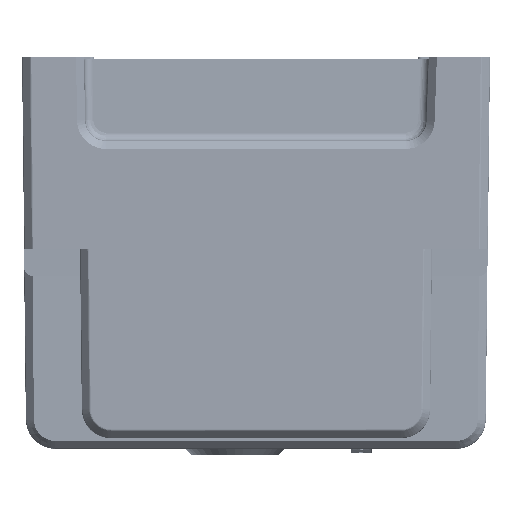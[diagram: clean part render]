
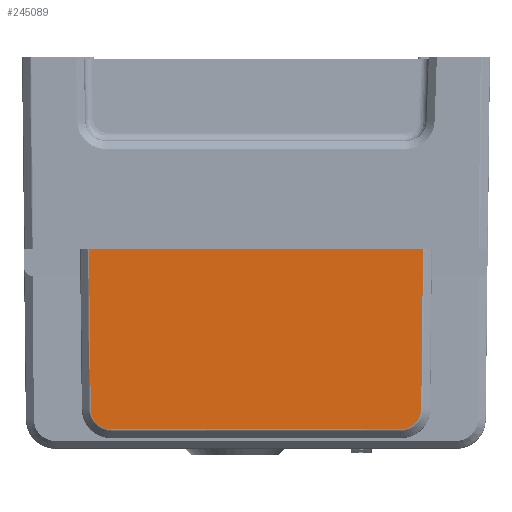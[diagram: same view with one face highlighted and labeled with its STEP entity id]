
A CAD part, left-side view. The second image highlights one B-rep face of the part: STEP entity #245089.
In plain terms, the highlighted planar face has unit normal (-1, 0, -0.011).
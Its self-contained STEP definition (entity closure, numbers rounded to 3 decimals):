
#11686 = PLANE ( 'NONE',  #228185 ) ;
#14276 = LINE ( 'NONE', #365718, #25817 ) ;
#22101 = EDGE_CURVE ( 'NONE', #233166, #151513, #14276, .T. ) ;
#25817 = VECTOR ( 'NONE', #97815, 1000. ) ;
#32650 = CARTESIAN_POINT ( 'NONE',  ( -980.051, -148.144, 45.318 ) ) ;
#38144 = EDGE_CURVE ( 'NONE', #63522, #233166, #71163, .T. ) ;
#43756 = EDGE_CURVE ( 'NONE', #217004, #241047, #55320, .T. ) ;
#45601 = CARTESIAN_POINT ( 'NONE',  ( -979.097, -158.729, -40.468 ) ) ;
#55320 = LINE ( 'NONE', #179485, #64120 ) ;
#57778 = EDGE_CURVE ( 'NONE', #158749, #217004, #282459, .T. ) ;
#63522 = VERTEX_POINT ( 'NONE', #136607 ) ;
#64120 = VECTOR ( 'NONE', #208631, 1000. ) ;
#65273 = CARTESIAN_POINT ( 'NONE',  ( -979.176, -149.017, -33.386 ) ) ;
#66133 = FACE_OUTER_BOUND ( 'NONE', #101241, .T. ) ;
#71163 = LINE ( 'NONE', #152814, #291449 ) ;
#77647 = ORIENTED_EDGE ( 'NONE', *, *, #328596, .T. ) ;
#97185 = CARTESIAN_POINT ( 'NONE',  ( -980.051, -144.884, 45.318 ) ) ;
#97815 = DIRECTION ( 'NONE',  ( 0., 1., 0. ) ) ;
#98226 = CARTESIAN_POINT ( 'NONE',  ( -979.097, -158.729, -40.468 ) ) ;
#101241 = EDGE_LOOP ( 'NONE', ( #351415, #372714, #336198, #280248, #132900, #77647 ) ) ;
#127365 = CARTESIAN_POINT ( 'NONE',  ( -979.109, -153.674, -39.428 ) ) ;
#132900 = ORIENTED_EDGE ( 'NONE', *, *, #22101, .T. ) ;
#133310 = DIRECTION ( 'NONE',  ( 0.011, -0.011, -1. ) ) ;
#136607 = CARTESIAN_POINT ( 'NONE',  ( -979.204, -305.777, -30.833 ) ) ;
#151513 = VERTEX_POINT ( 'NONE', #32650 ) ;
#152814 = CARTESIAN_POINT ( 'NONE',  ( -980.051, -306.624, 45.323 ) ) ;
#158749 = VERTEX_POINT ( 'NONE', #171920 ) ;
#171920 = CARTESIAN_POINT ( 'NONE',  ( -979.204, -148.99, -30.833 ) ) ;
#179485 = CARTESIAN_POINT ( 'NONE',  ( -979.097, -296.038, -40.468 ) ) ;
#183719 = CARTESIAN_POINT ( 'NONE',  ( -979.148, -150.085, -35.878 ) ) ;
#187696 = DIRECTION ( 'NONE',  ( -0.011, -0.011, 1. ) ) ;
#189506 = CARTESIAN_POINT ( 'NONE',  ( -979.148, -304.683, -35.876 ) ) ;
#193351 = CARTESIAN_POINT ( 'NONE',  ( -979.176, -305.75, -33.386 ) ) ;
#197221 = CARTESIAN_POINT ( 'NONE',  ( -979.097, -298.592, -40.468 ) ) ;
#208631 = DIRECTION ( 'NONE',  ( 0., -1., 0. ) ) ;
#217004 = VERTEX_POINT ( 'NONE', #45601 ) ;
#217517 = CARTESIAN_POINT ( 'NONE',  ( -980.051, -306.624, 45.318 ) ) ;
#224407 = CARTESIAN_POINT ( 'NONE',  ( -979.204, -305.777, -30.833 ) ) ;
#224548 = LINE ( 'NONE', #284700, #368647 ) ;
#228185 = AXIS2_PLACEMENT_3D ( 'NONE', #97185, #363172, #250460 ) ;
#233166 = VERTEX_POINT ( 'NONE', #217517 ) ;
#241047 = VERTEX_POINT ( 'NONE', #293295 ) ;
#243760 = B_SPLINE_CURVE_WITH_KNOTS ( 'NONE', 3,
 ( #253492, #197221, #338953, #189506, #193351, #224407 ),
 .UNSPECIFIED., .F., .F.,
 ( 4, 2, 4 ),
 ( 0., 0.5, 1. ),
 .UNSPECIFIED. ) ;
#243875 = CARTESIAN_POINT ( 'NONE',  ( -979.097, -156.175, -40.468 ) ) ;
#245089 = ADVANCED_FACE ( 'NONE', ( #66133 ), #11686, .T. ) ;
#250460 = DIRECTION ( 'NONE',  ( 0.011, 0., -1. ) ) ;
#253492 = CARTESIAN_POINT ( 'NONE',  ( -979.097, -296.038, -40.468 ) ) ;
#280248 = ORIENTED_EDGE ( 'NONE', *, *, #38144, .T. ) ;
#282459 = B_SPLINE_CURVE_WITH_KNOTS ( 'NONE', 3,
 ( #331241, #65273, #183719, #127365, #243875, #98226 ),
 .UNSPECIFIED., .F., .F.,
 ( 4, 2, 4 ),
 ( 0., 0.5, 1. ),
 .UNSPECIFIED. ) ;
#284700 = CARTESIAN_POINT ( 'NONE',  ( -979.204, -148.99, -30.833 ) ) ;
#291449 = VECTOR ( 'NONE', #187696, 1000. ) ;
#293295 = CARTESIAN_POINT ( 'NONE',  ( -979.097, -296.038, -40.468 ) ) ;
#300548 = EDGE_CURVE ( 'NONE', #241047, #63522, #243760, .T. ) ;
#328596 = EDGE_CURVE ( 'NONE', #151513, #158749, #224548, .T. ) ;
#331241 = CARTESIAN_POINT ( 'NONE',  ( -979.204, -148.99, -30.833 ) ) ;
#336198 = ORIENTED_EDGE ( 'NONE', *, *, #300548, .T. ) ;
#338953 = CARTESIAN_POINT ( 'NONE',  ( -979.109, -301.095, -39.426 ) ) ;
#351415 = ORIENTED_EDGE ( 'NONE', *, *, #57778, .T. ) ;
#363172 = DIRECTION ( 'NONE',  ( -1., 0., -0.011 ) ) ;
#365718 = CARTESIAN_POINT ( 'NONE',  ( -980.051, -144.884, 45.318 ) ) ;
#368647 = VECTOR ( 'NONE', #133310, 1000. ) ;
#372714 = ORIENTED_EDGE ( 'NONE', *, *, #43756, .T. ) ;
